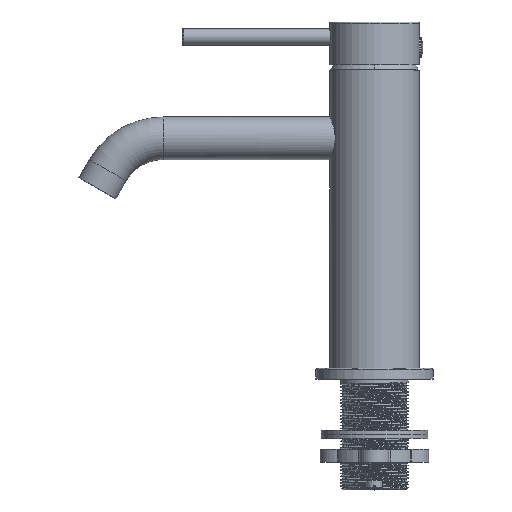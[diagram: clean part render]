
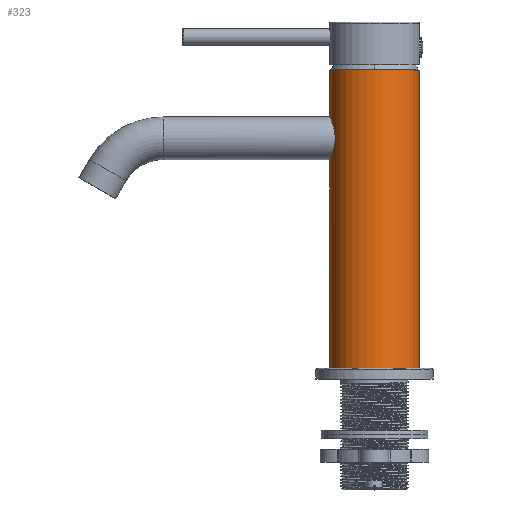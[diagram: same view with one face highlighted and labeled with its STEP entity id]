
A CAD part, top view. The second image highlights one B-rep face of the part: STEP entity #323.
In plain terms, the highlighted cylindrical face has radius 21 mm (diameter 42 mm), a partial arc.
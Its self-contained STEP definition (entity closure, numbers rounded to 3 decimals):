
#39=CARTESIAN_POINT('',(0.,-0.5,0.));
#40=DIRECTION('',(0.,-1.,0.));
#41=DIRECTION('',(1.,0.,0.));
#42=AXIS2_PLACEMENT_3D('',#39,#40,#41);
#44=CARTESIAN_POINT('',(0.,-140.5,0.));
#45=DIRECTION('',(0.,-1.,0.));
#46=DIRECTION('',(1.,0.,0.));
#47=AXIS2_PLACEMENT_3D('',#44,#45,#46);
#49=CARTESIAN_POINT('',(-21.,-27.5,0.));
#50=CARTESIAN_POINT('',(-21.,-27.5,0.397));
#51=CARTESIAN_POINT('',(-20.978,-27.59,1.176));
#52=CARTESIAN_POINT('',(-20.878,-28.026,2.347));
#53=CARTESIAN_POINT('',(-20.738,-28.725,3.351));
#54=CARTESIAN_POINT('',(-20.591,-29.616,4.145));
#55=CARTESIAN_POINT('',(-20.462,-30.721,4.729));
#56=CARTESIAN_POINT('',(-20.393,-31.921,5.013));
#57=CARTESIAN_POINT('',(-20.393,-33.084,5.012));
#58=CARTESIAN_POINT('',(-20.462,-34.281,4.728));
#59=CARTESIAN_POINT('',(-20.591,-35.387,4.143));
#60=CARTESIAN_POINT('',(-20.739,-36.28,3.344));
#61=CARTESIAN_POINT('',(-20.879,-36.974,2.344));
#62=CARTESIAN_POINT('',(-20.978,-37.41,1.175));
#63=CARTESIAN_POINT('',(-21.,-37.5,0.397));
#64=CARTESIAN_POINT('',(-21.,-37.5,0.));
#71=DIRECTION('',(0.,1.,0.));
#72=VECTOR('',#71,27.);
#73=CARTESIAN_POINT('',(-21.,-27.5,0.));
#74=LINE('',#73,#72);
#92=DIRECTION('',(0.,1.,0.));
#93=VECTOR('',#92,103.);
#94=CARTESIAN_POINT('',(-21.,-140.5,0.));
#95=LINE('',#94,#93);
#101=DIRECTION('',(0.,1.,0.));
#102=VECTOR('',#101,140.);
#103=CARTESIAN_POINT('',(21.,-140.5,0.));
#104=LINE('',#103,#102);
#219=CARTESIAN_POINT('',(21.,-140.5,0.));
#220=CARTESIAN_POINT('',(-21.,-140.5,0.));
#221=VERTEX_POINT('',#219);
#222=VERTEX_POINT('',#220);
#231=VERTEX_POINT('',#49);
#232=VERTEX_POINT('',#64);
#249=CARTESIAN_POINT('',(21.,-0.5,0.));
#250=CARTESIAN_POINT('',(-21.,-0.5,0.));
#251=VERTEX_POINT('',#249);
#252=VERTEX_POINT('',#250);
#305=CARTESIAN_POINT('',(0.,7.025,0.));
#306=DIRECTION('',(0.,-1.,0.));
#307=DIRECTION('',(-1.,0.,0.));
#308=AXIS2_PLACEMENT_3D('',#305,#306,#307);
#309=CYLINDRICAL_SURFACE('',#308,21.);
#311=ORIENTED_EDGE('',*,*,#310,.F.);
#313=ORIENTED_EDGE('',*,*,#312,.F.);
#314=ORIENTED_EDGE('',*,*,#293,.T.);
#316=ORIENTED_EDGE('',*,*,#315,.T.);
#318=ORIENTED_EDGE('',*,*,#317,.F.);
#320=ORIENTED_EDGE('',*,*,#319,.T.);
#321=EDGE_LOOP('',(#311,#313,#314,#316,#318,#320));
#322=FACE_OUTER_BOUND('',#321,.F.);
#43=CIRCLE('',#42,21.);
#48=CIRCLE('',#47,21.);
#65=B_SPLINE_CURVE_WITH_KNOTS('',3,(#49,#50,#51,#52,#53,#54,#55,#56,#57,#58,#59,
#60,#61,#62,#63,#64),.UNSPECIFIED.,.F.,.F.,(4,1,1,1,1,1,1,1,1,1,1,1,1,4),(0.,
0.077,0.154,0.231,0.308,
0.385,0.462,0.538,0.615,
0.692,0.769,0.846,0.923,1.),
.UNSPECIFIED.);
#293=EDGE_CURVE('',#221,#222,#48,.T.);
#310=EDGE_CURVE('',#251,#252,#43,.T.);
#312=EDGE_CURVE('',#221,#251,#104,.T.);
#315=EDGE_CURVE('',#222,#232,#95,.T.);
#317=EDGE_CURVE('',#231,#232,#65,.T.);
#319=EDGE_CURVE('',#231,#252,#74,.T.);
#323=ADVANCED_FACE('',(#322),#309,.T.);
